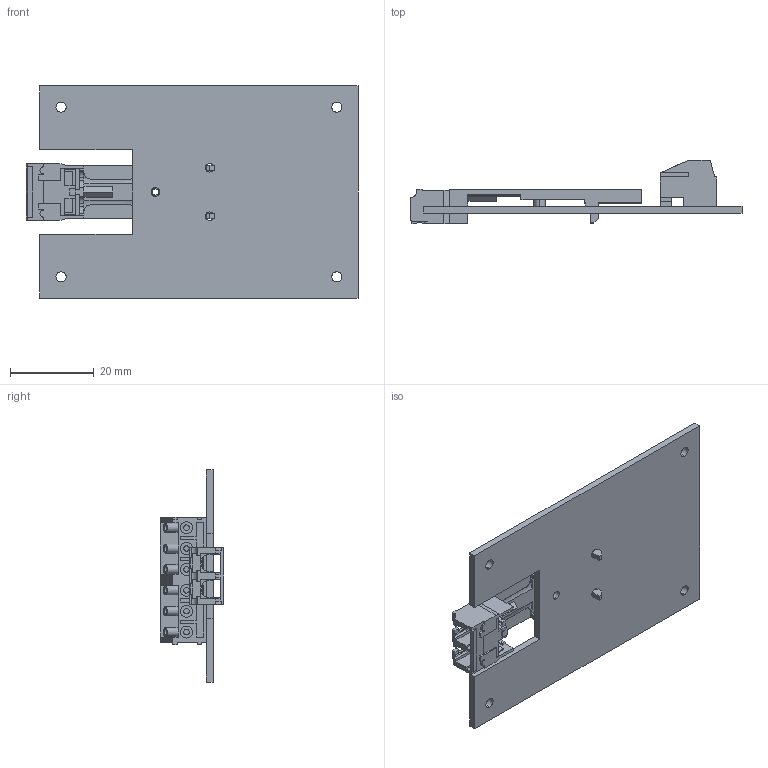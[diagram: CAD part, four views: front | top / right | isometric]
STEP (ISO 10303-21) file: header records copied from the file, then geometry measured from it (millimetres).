
FILE_DESCRIPTION (( 'STEP AP214' ), '1' );
FILE_NAME ('MR380-0-1.STEP', '2016-04-28T21:15:22', ( '' ), ( '' ), 'SwSTEP 2.0', 'SolidWorks 2016', '' );
FILE_SCHEMA (( 'AUTOMOTIVE_DESIGN' ));
Length unit declared in the file: inch
Products named in the file (1): MR380-0-1
Bounding box: 79.51 x 15.15 x 50.8 mm (x, y, z)
Volume: 9266.9 mm3; surface area: 13489.7 mm2
Topology: 3 solids, 3 shells, 405 faces, 1092 edges, 725 vertices
Faces by surface type: plane 310, cylinder 95
Entity records: 18017 total; most frequent: CARTESIAN_POINT 2343, ORIENTED_EDGE 2184, DIRECTION 2048, EDGE_CURVE 1092, VECTOR 892, LINE 892, VERTEX_POINT 725, AXIS2_PLACEMENT_3D 578
